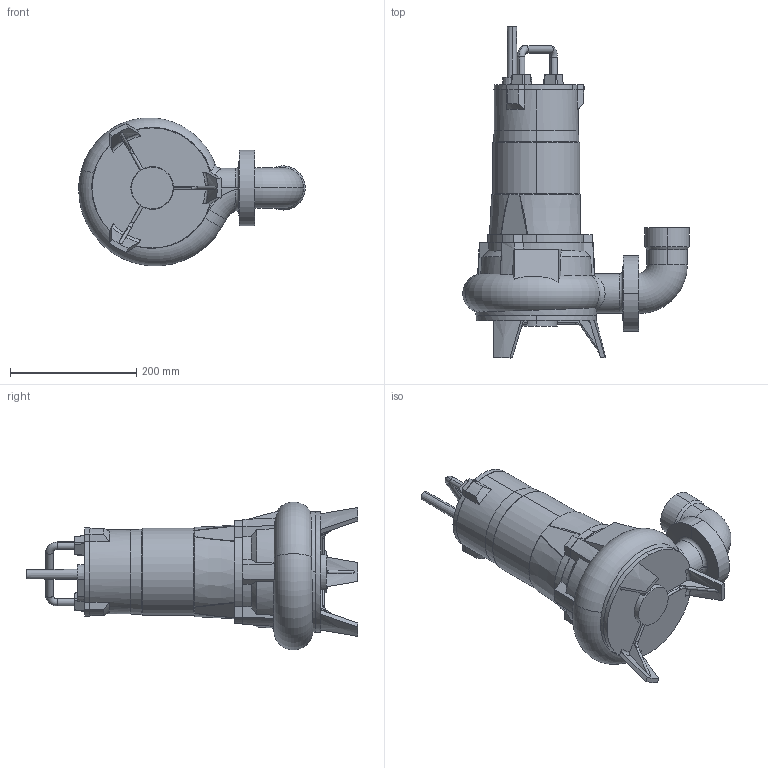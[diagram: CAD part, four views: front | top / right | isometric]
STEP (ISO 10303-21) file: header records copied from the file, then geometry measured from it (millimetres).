
FILE_DESCRIPTION (( 'STEP AP203' ), '1' );
FILE_NAME ('F154-202.STEP', '2022-10-14T06:28:31', ( '' ), ( '' ), 'SwSTEP 2.0', 'SolidWorks 2020', '' );
FILE_SCHEMA (( 'CONFIG_CONTROL_DESIGN' ));
Length unit declared in the file: millimetre
Products named in the file (1): F154-202
Bounding box: 358.26 x 525 x 233.78 mm (x, y, z)
Volume: 8677972.2 mm3; surface area: 349944.2 mm2
Topology: 1 solids, 3 shells, 224 faces, 596 edges, 384 vertices
Faces by surface type: plane 84, cone 58, cylinder 43, torus 21, bspline 18
Entity records: 9930 total; most frequent: CARTESIAN_POINT 4626, ORIENTED_EDGE 1184, DIRECTION 996, EDGE_CURVE 592, AXIS2_PLACEMENT_3D 402, VERTEX_POINT 384, EDGE_LOOP 236, FACE_OUTER_BOUND 224
